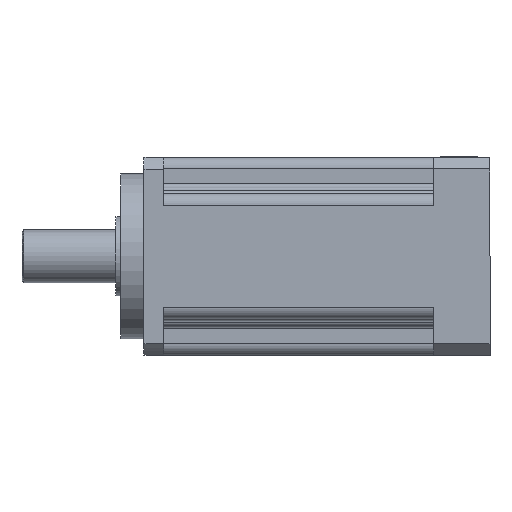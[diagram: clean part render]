
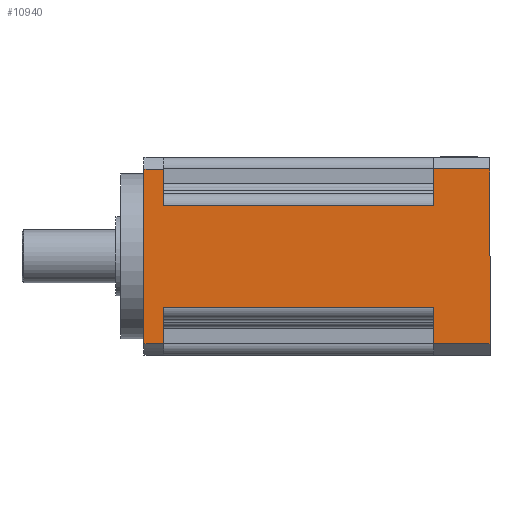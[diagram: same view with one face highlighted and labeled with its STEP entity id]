
A CAD part, left-side view. The second image highlights one B-rep face of the part: STEP entity #10940.
In plain terms, the highlighted planar face has unit normal (-1, 0, 0).
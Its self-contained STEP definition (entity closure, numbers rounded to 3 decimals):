
#29 = CARTESIAN_POINT ( 'NONE',  ( -79.215, 53.845, -30. ) ) ;
#97 = CARTESIAN_POINT ( 'NONE',  ( -79.215, 59.845, -26.458 ) ) ;
#144 = DIRECTION ( 'NONE',  ( 0., 0., 1. ) ) ;
#310 = VECTOR ( 'NONE', #13543, 1000. ) ;
#789 = VECTOR ( 'NONE', #21709, 1000. ) ;
#1011 = CARTESIAN_POINT ( 'NONE',  ( -79.215, -28.155, -26.5 ) ) ;
#1726 = DIRECTION ( 'NONE',  ( 0., 0., -1. ) ) ;
#1800 = VECTOR ( 'NONE', #16304, 1000. ) ;
#1821 = CARTESIAN_POINT ( 'NONE',  ( -79.215, -28.155, -15.5 ) ) ;
#1902 = LINE ( 'NONE', #12330, #2966 ) ;
#1921 = ORIENTED_EDGE ( 'NONE', *, *, #3167, .F. ) ;
#1931 = EDGE_CURVE ( 'NONE', #21563, #3724, #8587, .T. ) ;
#2229 = ORIENTED_EDGE ( 'NONE', *, *, #15312, .F. ) ;
#2966 = VECTOR ( 'NONE', #15744, 1000. ) ;
#3034 = CARTESIAN_POINT ( 'NONE',  ( -79.215, 53.845, 26.458 ) ) ;
#3167 = EDGE_CURVE ( 'NONE', #3724, #16352, #11874, .T. ) ;
#3724 = VERTEX_POINT ( 'NONE', #10999 ) ;
#3806 = FACE_OUTER_BOUND ( 'NONE', #17218, .T. ) ;
#3905 = ORIENTED_EDGE ( 'NONE', *, *, #21827, .F. ) ;
#4400 = VERTEX_POINT ( 'NONE', #6894 ) ;
#4449 = CARTESIAN_POINT ( 'NONE',  ( -79.215, -28.155, -30. ) ) ;
#4486 = VECTOR ( 'NONE', #1726, 1000. ) ;
#4640 = DIRECTION ( 'NONE',  ( 0., -1., 0. ) ) ;
#4749 = LINE ( 'NONE', #9741, #789 ) ;
#4930 = DIRECTION ( 'NONE',  ( 1., 0., 0. ) ) ;
#5068 = VECTOR ( 'NONE', #18012, 1000. ) ;
#5113 = ORIENTED_EDGE ( 'NONE', *, *, #12067, .F. ) ;
#5331 = EDGE_CURVE ( 'NONE', #16352, #20512, #14855, .T. ) ;
#5926 = CARTESIAN_POINT ( 'NONE',  ( -79.215, -28.155, 15.5 ) ) ;
#6050 = CARTESIAN_POINT ( 'NONE',  ( -79.215, -28.155, 26.5 ) ) ;
#6312 = LINE ( 'NONE', #8963, #20871 ) ;
#6453 = ORIENTED_EDGE ( 'NONE', *, *, #20696, .F. ) ;
#6539 = PLANE ( 'NONE',  #13184 ) ;
#6553 = VERTEX_POINT ( 'NONE', #6050 ) ;
#6894 = CARTESIAN_POINT ( 'NONE',  ( -79.215, 53.845, 15.5 ) ) ;
#7004 = VECTOR ( 'NONE', #14394, 1000. ) ;
#7059 = VECTOR ( 'NONE', #16827, 1000. ) ;
#7981 = ORIENTED_EDGE ( 'NONE', *, *, #19698, .F. ) ;
#8240 = ORIENTED_EDGE ( 'NONE', *, *, #9277, .F. ) ;
#8587 = LINE ( 'NONE', #1011, #7004 ) ;
#8800 = CARTESIAN_POINT ( 'NONE',  ( -79.215, -45.155, -26.5 ) ) ;
#8963 = CARTESIAN_POINT ( 'NONE',  ( -79.215, 59.845, -30. ) ) ;
#9190 = LINE ( 'NONE', #18115, #15788 ) ;
#9207 = VERTEX_POINT ( 'NONE', #3034 ) ;
#9277 = EDGE_CURVE ( 'NONE', #4400, #14290, #4749, .T. ) ;
#9661 = CARTESIAN_POINT ( 'NONE',  ( -79.215, -28.155, -26.458 ) ) ;
#9741 = CARTESIAN_POINT ( 'NONE',  ( -79.215, -28.155, 15.5 ) ) ;
#10630 = ORIENTED_EDGE ( 'NONE', *, *, #1931, .F. ) ;
#10940 = ADVANCED_FACE ( 'NONE', ( #3806 ), #6539, .F. ) ;
#10999 = CARTESIAN_POINT ( 'NONE',  ( -79.215, -28.155, -26.5 ) ) ;
#11108 = DIRECTION ( 'NONE',  ( 0., 1., 0. ) ) ;
#11516 = CARTESIAN_POINT ( 'NONE',  ( -79.215, -28.155, -30. ) ) ;
#11755 = CARTESIAN_POINT ( 'NONE',  ( -79.215, -45.155, 26.5 ) ) ;
#11874 = LINE ( 'NONE', #4449, #1800 ) ;
#12067 = EDGE_CURVE ( 'NONE', #16208, #18960, #21766, .T. ) ;
#12330 = CARTESIAN_POINT ( 'NONE',  ( -79.215, -45.155, -30. ) ) ;
#13098 = ORIENTED_EDGE ( 'NONE', *, *, #5331, .F. ) ;
#13184 = AXIS2_PLACEMENT_3D ( 'NONE', #21838, #4930, #15223 ) ;
#13543 = DIRECTION ( 'NONE',  ( 0., 0., -1. ) ) ;
#13664 = VERTEX_POINT ( 'NONE', #11755 ) ;
#14201 = CARTESIAN_POINT ( 'NONE',  ( -79.215, -28.155, -15.5 ) ) ;
#14290 = VERTEX_POINT ( 'NONE', #5926 ) ;
#14394 = DIRECTION ( 'NONE',  ( 0., 1., 0. ) ) ;
#14752 = EDGE_CURVE ( 'NONE', #13664, #21563, #1902, .T. ) ;
#14855 = LINE ( 'NONE', #14201, #19996 ) ;
#14919 = VERTEX_POINT ( 'NONE', #21216 ) ;
#15223 = DIRECTION ( 'NONE',  ( 0., 0., -1. ) ) ;
#15312 = EDGE_CURVE ( 'NONE', #20512, #16208, #20152, .T. ) ;
#15633 = ORIENTED_EDGE ( 'NONE', *, *, #16271, .F. ) ;
#15744 = DIRECTION ( 'NONE',  ( 0., 0., -1. ) ) ;
#15788 = VECTOR ( 'NONE', #16171, 1000. ) ;
#16171 = DIRECTION ( 'NONE',  ( 0., -1., 0. ) ) ;
#16208 = VERTEX_POINT ( 'NONE', #21998 ) ;
#16271 = EDGE_CURVE ( 'NONE', #18960, #14919, #6312, .T. ) ;
#16304 = DIRECTION ( 'NONE',  ( 0., 0., 1. ) ) ;
#16352 = VERTEX_POINT ( 'NONE', #1821 ) ;
#16544 = LINE ( 'NONE', #11516, #7059 ) ;
#16571 = EDGE_CURVE ( 'NONE', #14919, #9207, #9190, .T. ) ;
#16827 = DIRECTION ( 'NONE',  ( 0., 0., 1. ) ) ;
#17218 = EDGE_LOOP ( 'NONE', ( #1921, #10630, #17443, #6453, #7981, #8240, #3905, #20978, #15633, #5113, #2229, #13098 ) ) ;
#17443 = ORIENTED_EDGE ( 'NONE', *, *, #14752, .F. ) ;
#18012 = DIRECTION ( 'NONE',  ( 0., 1., 0. ) ) ;
#18115 = CARTESIAN_POINT ( 'NONE',  ( -79.215, -28.155, 26.458 ) ) ;
#18839 = CARTESIAN_POINT ( 'NONE',  ( -79.215, 53.845, -30. ) ) ;
#18960 = VERTEX_POINT ( 'NONE', #97 ) ;
#19698 = EDGE_CURVE ( 'NONE', #14290, #6553, #16544, .T. ) ;
#19864 = CARTESIAN_POINT ( 'NONE',  ( -79.215, -28.155, 26.5 ) ) ;
#19939 = LINE ( 'NONE', #18839, #310 ) ;
#19996 = VECTOR ( 'NONE', #11108, 1000. ) ;
#20152 = LINE ( 'NONE', #29, #4486 ) ;
#20512 = VERTEX_POINT ( 'NONE', #20901 ) ;
#20696 = EDGE_CURVE ( 'NONE', #6553, #13664, #21533, .T. ) ;
#20871 = VECTOR ( 'NONE', #144, 1000. ) ;
#20901 = CARTESIAN_POINT ( 'NONE',  ( -79.215, 53.845, -15.5 ) ) ;
#20978 = ORIENTED_EDGE ( 'NONE', *, *, #16571, .F. ) ;
#20997 = VECTOR ( 'NONE', #4640, 1000. ) ;
#21216 = CARTESIAN_POINT ( 'NONE',  ( -79.215, 59.845, 26.458 ) ) ;
#21533 = LINE ( 'NONE', #19864, #20997 ) ;
#21563 = VERTEX_POINT ( 'NONE', #8800 ) ;
#21709 = DIRECTION ( 'NONE',  ( 0., -1., 0. ) ) ;
#21766 = LINE ( 'NONE', #9661, #5068 ) ;
#21827 = EDGE_CURVE ( 'NONE', #9207, #4400, #19939, .T. ) ;
#21838 = CARTESIAN_POINT ( 'NONE',  ( -79.215, -28.155, -30. ) ) ;
#21998 = CARTESIAN_POINT ( 'NONE',  ( -79.215, 53.845, -26.458 ) ) ;
